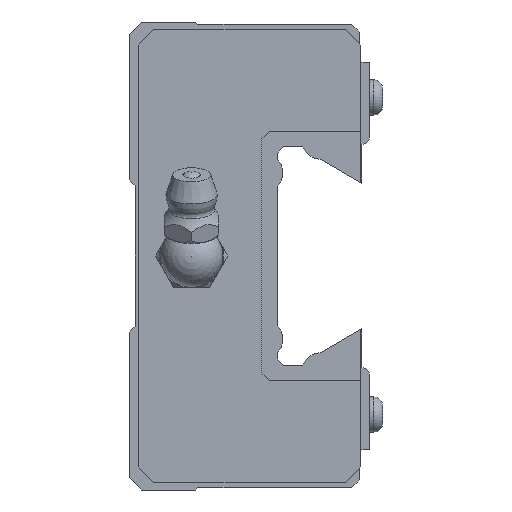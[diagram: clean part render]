
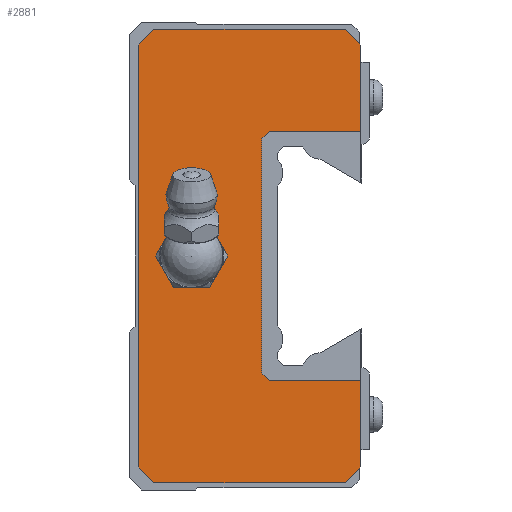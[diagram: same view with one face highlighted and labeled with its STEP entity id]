
A CAD part, left-side view. The second image highlights one B-rep face of the part: STEP entity #2881.
In plain terms, the highlighted planar face has unit normal (-1, 0, 0).
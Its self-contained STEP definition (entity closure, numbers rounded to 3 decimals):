
#118=LINE('',#4332,#420);
#133=LINE('',#4363,#435);
#140=LINE('',#4377,#442);
#144=LINE('',#4384,#446);
#154=LINE('',#4405,#456);
#157=LINE('',#4410,#459);
#165=LINE('',#4422,#467);
#207=LINE('',#4512,#509);
#213=LINE('',#4524,#515);
#313=LINE('',#4790,#615);
#314=LINE('',#4793,#616);
#315=LINE('',#4794,#617);
#316=LINE('',#4796,#618);
#317=LINE('',#4798,#619);
#420=VECTOR('',#3417,1000.);
#435=VECTOR('',#3434,1000.);
#442=VECTOR('',#3445,1000.);
#446=VECTOR('',#3451,1000.);
#456=VECTOR('',#3463,1000.);
#459=VECTOR('',#3468,1000.);
#467=VECTOR('',#3484,1000.);
#509=VECTOR('',#3554,1000.);
#515=VECTOR('',#3562,1000.);
#615=VECTOR('',#3804,1000.);
#616=VECTOR('',#3805,1000.);
#617=VECTOR('',#3806,1000.);
#618=VECTOR('',#3807,1000.);
#619=VECTOR('',#3808,1000.);
#728=PLANE('',#3127);
#838=CIRCLE('',#3128,3.);
#1442=ORIENTED_EDGE('',*,*,#1983,.T.);
#1443=ORIENTED_EDGE('',*,*,#1984,.T.);
#1444=ORIENTED_EDGE('',*,*,#1985,.T.);
#1445=ORIENTED_EDGE('',*,*,#1852,.F.);
#1446=ORIENTED_EDGE('',*,*,#1785,.F.);
#1447=ORIENTED_EDGE('',*,*,#1781,.F.);
#1448=ORIENTED_EDGE('',*,*,#1774,.F.);
#1449=ORIENTED_EDGE('',*,*,#1806,.F.);
#1450=ORIENTED_EDGE('',*,*,#1759,.F.);
#1451=ORIENTED_EDGE('',*,*,#1798,.F.);
#1452=ORIENTED_EDGE('',*,*,#1795,.F.);
#1453=ORIENTED_EDGE('',*,*,#1858,.F.);
#1454=ORIENTED_EDGE('',*,*,#1986,.T.);
#1455=ORIENTED_EDGE('',*,*,#1987,.T.);
#1456=ORIENTED_EDGE('',*,*,#1988,.T.);
#1759=EDGE_CURVE('',#2118,#2119,#118,.T.);
#1774=EDGE_CURVE('',#2133,#2134,#133,.T.);
#1781=EDGE_CURVE('',#2134,#2139,#140,.T.);
#1785=EDGE_CURVE('',#2139,#2141,#144,.T.);
#1795=EDGE_CURVE('',#2150,#2151,#154,.T.);
#1798=EDGE_CURVE('',#2151,#2118,#157,.T.);
#1806=EDGE_CURVE('',#2119,#2133,#165,.T.);
#1852=EDGE_CURVE('',#2141,#2186,#207,.T.);
#1858=EDGE_CURVE('',#2190,#2150,#213,.T.);
#1983=EDGE_CURVE('',#2285,#2285,#838,.T.);
#1984=EDGE_CURVE('',#2286,#2287,#313,.T.);
#1985=EDGE_CURVE('',#2287,#2186,#314,.T.);
#1986=EDGE_CURVE('',#2190,#2288,#315,.T.);
#1987=EDGE_CURVE('',#2288,#2289,#316,.T.);
#1988=EDGE_CURVE('',#2289,#2286,#317,.T.);
#2118=VERTEX_POINT('',#4331);
#2119=VERTEX_POINT('',#4333);
#2133=VERTEX_POINT('',#4362);
#2134=VERTEX_POINT('',#4364);
#2139=VERTEX_POINT('',#4378);
#2141=VERTEX_POINT('',#4385);
#2150=VERTEX_POINT('',#4404);
#2151=VERTEX_POINT('',#4406);
#2186=VERTEX_POINT('',#4513);
#2190=VERTEX_POINT('',#4523);
#2285=VERTEX_POINT('',#4789);
#2286=VERTEX_POINT('',#4791);
#2287=VERTEX_POINT('',#4792);
#2288=VERTEX_POINT('',#4795);
#2289=VERTEX_POINT('',#4797);
#2468=EDGE_LOOP('',(#1442));
#2469=EDGE_LOOP('',(#1443,#1444,#1445,#1446,#1447,#1448,#1449,#1450,#1451,
#1452,#1453,#1454,#1455,#1456));
#2679=FACE_BOUND('',#2468,.T.);
#2680=FACE_BOUND('',#2469,.T.);
#2881=ADVANCED_FACE('',(#2679,#2680),#728,.F.);
#3127=AXIS2_PLACEMENT_3D('',#4787,#3800,#3801);
#3128=AXIS2_PLACEMENT_3D('',#4788,#3802,#3803);
#3417=DIRECTION('',(0.,0.707,0.707));
#3434=DIRECTION('',(0.,-0.707,0.707));
#3445=DIRECTION('',(0.,-1.,0.));
#3451=DIRECTION('',(0.,-0.707,-0.707));
#3463=DIRECTION('',(0.,0.707,-0.707));
#3468=DIRECTION('',(0.,1.,0.));
#3484=DIRECTION('',(0.,0.,1.));
#3554=DIRECTION('',(0.,0.,-1.));
#3562=DIRECTION('',(0.,0.,-1.));
#3800=DIRECTION('',(1.,0.,0.));
#3801=DIRECTION('',(0.,0.,-1.));
#3802=DIRECTION('',(1.,0.,0.));
#3803=DIRECTION('',(0.,0.,-1.));
#3804=DIRECTION('',(0.,-0.707,0.707));
#3805=DIRECTION('',(0.,-1.,0.));
#3806=DIRECTION('',(0.,1.,0.));
#3807=DIRECTION('',(0.,0.707,0.707));
#3808=DIRECTION('',(0.,0.,1.));
#4331=CARTESIAN_POINT('',(-46.4,29.35,-29.05));
#4332=CARTESIAN_POINT('',(-46.4,29.35,-29.05));
#4333=CARTESIAN_POINT('',(-46.4,31.35,-27.05));
#4362=CARTESIAN_POINT('',(-46.4,31.35,27.05));
#4363=CARTESIAN_POINT('',(-46.4,31.35,27.05));
#4364=CARTESIAN_POINT('',(-46.4,29.35,29.05));
#4377=CARTESIAN_POINT('',(-46.4,29.35,29.05));
#4378=CARTESIAN_POINT('',(-46.4,4.8,29.05));
#4384=CARTESIAN_POINT('',(-46.4,4.8,29.05));
#4385=CARTESIAN_POINT('',(-46.4,2.8,27.05));
#4404=CARTESIAN_POINT('',(-46.4,2.8,-27.05));
#4405=CARTESIAN_POINT('',(-46.4,2.8,-27.05));
#4406=CARTESIAN_POINT('',(-46.4,4.8,-29.05));
#4410=CARTESIAN_POINT('',(-46.4,4.8,-29.05));
#4422=CARTESIAN_POINT('',(-46.4,31.35,-27.05));
#4512=CARTESIAN_POINT('',(-46.4,2.8,27.05));
#4513=CARTESIAN_POINT('',(-46.4,2.8,16.));
#4523=CARTESIAN_POINT('',(-46.4,2.8,-16.));
#4524=CARTESIAN_POINT('',(-46.4,2.8,27.05));
#4787=CARTESIAN_POINT('',(-46.4,0.,0.));
#4788=CARTESIAN_POINT('',(-46.4,24.5,0.));
#4789=CARTESIAN_POINT('',(-46.4,24.5,-3.));
#4790=CARTESIAN_POINT('',(-46.4,15.5,15.));
#4791=CARTESIAN_POINT('',(-46.4,15.5,15.));
#4792=CARTESIAN_POINT('',(-46.4,14.5,16.));
#4793=CARTESIAN_POINT('',(-46.4,14.5,16.));
#4794=CARTESIAN_POINT('',(-46.4,2.8,-16.));
#4795=CARTESIAN_POINT('',(-46.4,14.5,-16.));
#4796=CARTESIAN_POINT('',(-46.4,14.5,-16.));
#4797=CARTESIAN_POINT('',(-46.4,15.5,-15.));
#4798=CARTESIAN_POINT('',(-46.4,15.5,-15.));
